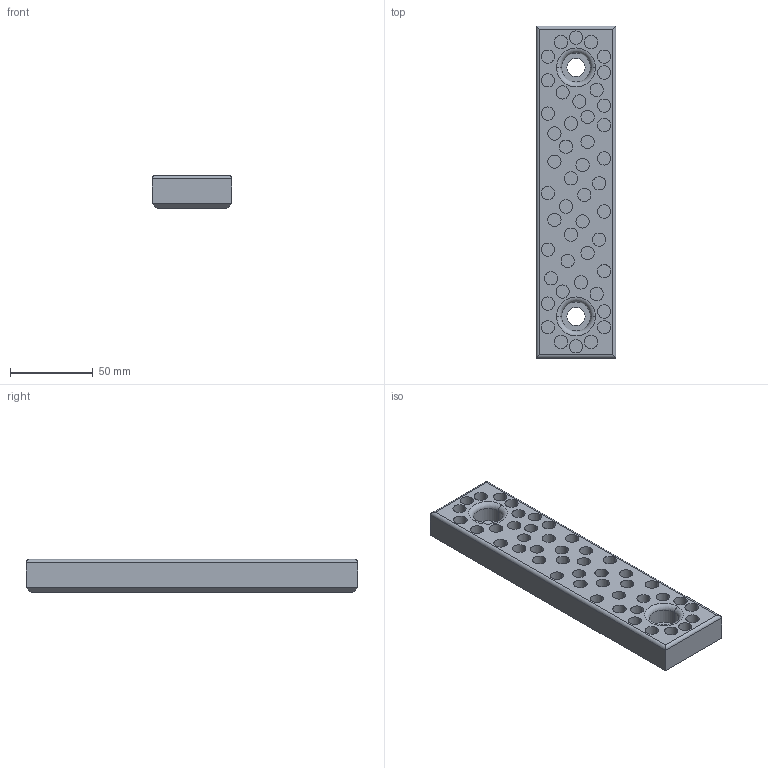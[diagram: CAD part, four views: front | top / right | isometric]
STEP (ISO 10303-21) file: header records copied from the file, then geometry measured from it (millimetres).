
FILE_DESCRIPTION (( 'STEP AP214' ), '1' );
FILE_NAME ('SW224-02-48x200.STEP', '2020-10-19T07:45:50', ( 'August' ), ( '' ), 'SwSTEP 2.0', 'SolidWorks 2018', '' );
FILE_SCHEMA (( 'AUTOMOTIVE_DESIGN' ));
Length unit declared in the file: millimetre
Products named in the file (1): SW224-02-48x200
Bounding box: 48 x 200 x 20 mm (x, y, z)
Volume: 166136.8 mm3; surface area: 37025.6 mm2
Topology: 1 solids, 1 shells, 166 faces, 336 edges, 220 vertices
Faces by surface type: cylinder 104, plane 58, torus 4
Entity records: 4950 total; most frequent: CARTESIAN_POINT 907, DIRECTION 870, ORIENTED_EDGE 672, AXIS2_PLACEMENT_3D 375, EDGE_CURVE 336, VERTEX_POINT 220, EDGE_LOOP 218, CIRCLE 208
